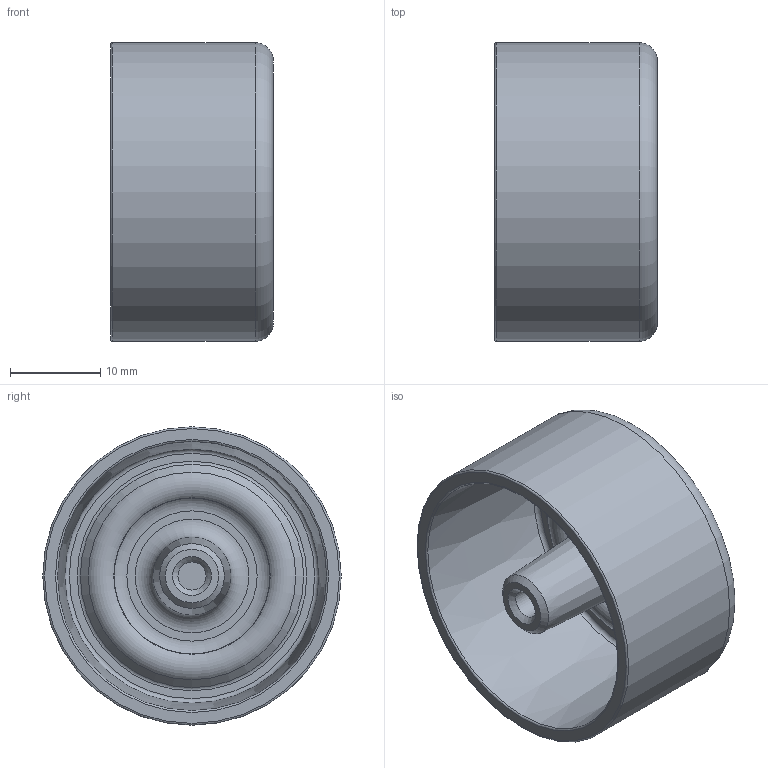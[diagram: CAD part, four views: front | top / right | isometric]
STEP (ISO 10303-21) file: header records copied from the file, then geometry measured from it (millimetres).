
FILE_DESCRIPTION(/* description */ ('STEP AP242','CAx-IF Rec.Pracs.---Representation and Presentation of Product Manufacturing Information (PMI)---4.0---2014-10-13','CAx-IF Rec.Pracs.---3D Tessellated Geometry---0.4---2014-09-14','2;1'),/* implementation_level */ '2;1');
FILE_NAME(/* name */ '6892d0e2eb96234880dab5aa',/* time_stamp */ '2025-08-06T03:49:55Z',/* author */ (''),/* organization */ (''),/* preprocessor_version */ 'ST-DEVELOPER v20',/* originating_system */ 'ONSHAPE BY PTC INC, 1.201',/* authorisation */ ' ');
FILE_SCHEMA (('AP242_MANAGED_MODEL_BASED_3D_ENGINEERING_MIM_LF { 1 0 10303 442 1 1 4 }'));
Length unit declared in the file: metre
Products named in the file (1): WTS Wide Wheel
Bounding box: 18 x 33 x 33 mm (x, y, z)
Volume: 5380.3 mm3; surface area: 5553.5 mm2
Topology: 1 solids, 1 shells, 368 faces, 807 edges, 447 vertices
Faces by surface type: torus 104, cylinder 80, bspline 70, cone 57, plane 50, sphere 7
Full cylindrical faces by diameter (mm): 2.652 x1, 3.1 x1, 33 x1
Entity records: 11181 total; most frequent: CARTESIAN_POINT 3586, DIRECTION 1645, ORIENTED_EDGE 1530, EDGE_CURVE 765, AXIS2_PLACEMENT_3D 721, VERTEX_POINT 436, CIRCLE 422, EDGE_LOOP 405
